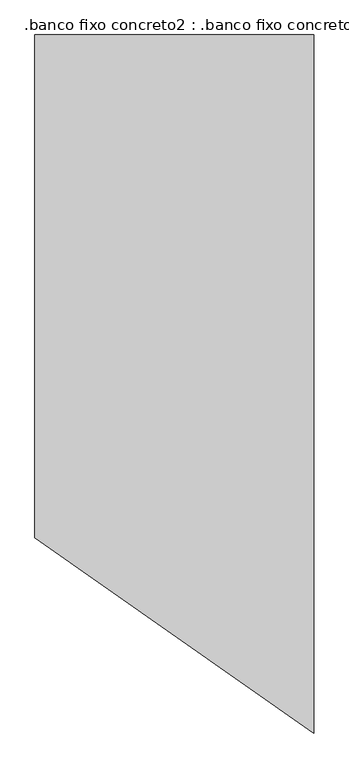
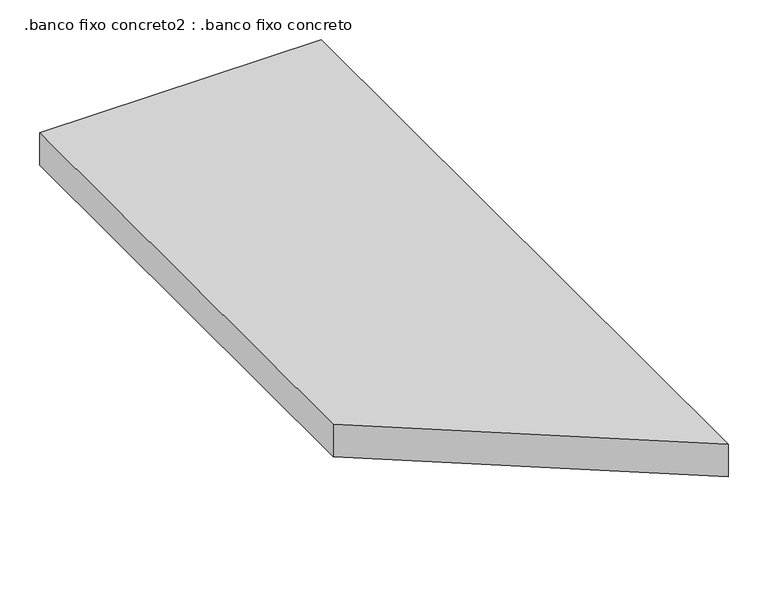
"""IFC4 building model written with IfcOpenShell, lengths in millimetres: proxy geometry, .banco fixo concreto2 : .banco fixo concreto."""

from ifc_helpers import new_model, si_unit, frame, origin, place, context, project, spatial, polyline, outline, extrude, source, transform, mapped, element, save


def banco_fixo_concreto2_banco_fixo_concreto_816fdc84(model_context):
    return source(origin(), model_context, "Body", "SweptSolid", [
        extrude(outline(polyline([(-10027.2739616, -15128.7847186), (-10027.2739616, -14388.7847186), (-9617.2739616, -14388.7847186), (-9617.2739616, -15415.8698092), (-10027.2739616, -15128.7847186)])), frame((0.0, 0.0, 500.0), z_axis=(0.0, 0.0, 1.0), x_axis=(1.0, 0.0, 0.0)), (0.0, 0.0, 1.0), 50.0),
    ])


if __name__ == "__main__":
    model = new_model("IFC4")
    model_context = context("Model", 3, world=origin())
    ifc_project = project(units=[si_unit("LENGTHUNIT", "METRE", prefix="MILLI")], contexts=[model_context])
    site = spatial("IfcSite", under=ifc_project)
    building = spatial("IfcBuilding", under=site)
    placement = place(None, origin())
    banco_fixo_concreto2_banco_fixo_concreto_shape = banco_fixo_concreto2_banco_fixo_concreto_816fdc84(model_context)
    element("IfcBuildingElementProxy", 1, Name=".banco fixo concreto2 : .banco fixo concreto", ObjectType=".banco fixo concreto2 : .banco fixo concreto", at=placement, inside=building, context=model_context, shape_type="MappedRepresentation", body=[
        mapped(banco_fixo_concreto2_banco_fixo_concreto_shape, transform((0.0, 0.0, 0.0), x_axis=(1.0, 0.0, 0.0), y_axis=(0.0, 1.0, 0.0), z_axis=(0.0, 0.0, 1.0))),
    ])
    save(model, "model.ifc")
